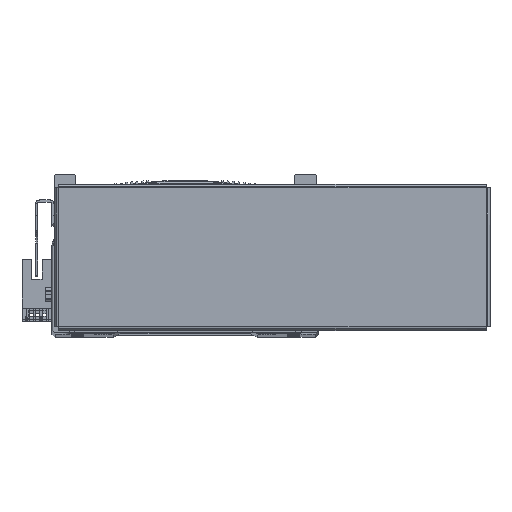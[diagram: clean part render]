
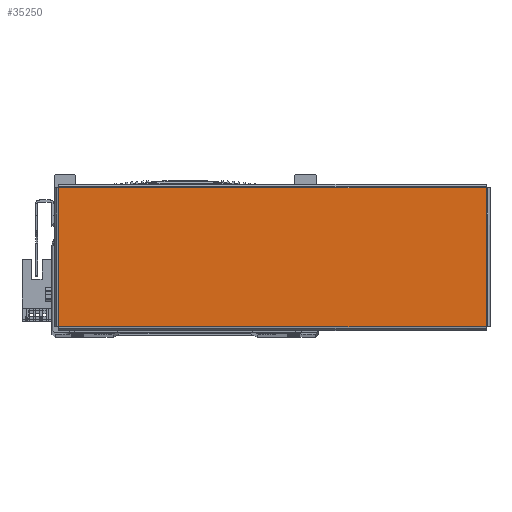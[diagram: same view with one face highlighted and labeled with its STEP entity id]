
A CAD part, top view. The second image highlights one B-rep face of the part: STEP entity #35250.
In plain terms, the highlighted planar face has unit normal (0, 0, 1) as drawn and (0, 0, -1) by its records, which use the part's own axes.
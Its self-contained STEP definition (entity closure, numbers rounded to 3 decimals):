
#5212 = VERTEX_POINT ( 'NONE', #69191 ) ;
#5233 = VERTEX_POINT ( 'NONE', #69200 ) ;
#5275 = VERTEX_POINT ( 'NONE', #69247 ) ;
#5286 = VERTEX_POINT ( 'NONE', #69251 ) ;
#35250 = ADVANCED_FACE ( 'NONE', ( #54344 ), #79522, .F. ) ;
#47933 = EDGE_LOOP ( 'NONE', ( #63510, #63354, #63363, #63422 ) ) ;
#54344 = FACE_OUTER_BOUND ( 'NONE', #47933, .T. ) ;
#63354 = ORIENTED_EDGE ( 'NONE', *, *, #72857, .T. ) ;
#63363 = ORIENTED_EDGE ( 'NONE', *, *, #72805, .T. ) ;
#63422 = ORIENTED_EDGE ( 'NONE', *, *, #72820, .T. ) ;
#63510 = ORIENTED_EDGE ( 'NONE', *, *, #72808, .T. ) ;
#66266 = AXIS2_PLACEMENT_3D ( 'NONE', #79524, #79468, #79477 ) ;
#67296 = CARTESIAN_POINT ( 'NONE',  ( -97.863, -31.793, -1. ) ) ;
#67304 = DIRECTION ( 'NONE',  ( 0., -1., 0. ) ) ;
#67308 = CARTESIAN_POINT ( 'NONE',  ( 97.863, 31.793, -1. ) ) ;
#67324 = DIRECTION ( 'NONE',  ( 0., 1., 0. ) ) ;
#67335 = DIRECTION ( 'NONE',  ( 1., 0., 0. ) ) ;
#67368 = CARTESIAN_POINT ( 'NONE',  ( -97.893, 31.763, -1. ) ) ;
#67461 = CARTESIAN_POINT ( 'NONE',  ( 97.893, -31.763, -1. ) ) ;
#67474 = DIRECTION ( 'NONE',  ( -1., 0., 0. ) ) ;
#69191 = CARTESIAN_POINT ( 'NONE',  ( 97.863, 31.763, -1. ) ) ;
#69200 = CARTESIAN_POINT ( 'NONE',  ( -97.863, 31.763, -1. ) ) ;
#69247 = CARTESIAN_POINT ( 'NONE',  ( 97.863, -31.763, -1. ) ) ;
#69251 = CARTESIAN_POINT ( 'NONE',  ( -97.863, -31.763, -1. ) ) ;
#72805 = EDGE_CURVE ( 'NONE', #5286, #5233, #77702, .T. ) ;
#72808 = EDGE_CURVE ( 'NONE', #5212, #5275, #77783, .T. ) ;
#72820 = EDGE_CURVE ( 'NONE', #5233, #5212, #77760, .T. ) ;
#72857 = EDGE_CURVE ( 'NONE', #5275, #5286, #77899, .T. ) ;
#77702 = LINE ( 'NONE', #67296, #77715 ) ;
#77704 = VECTOR ( 'NONE', #67304, 1000. ) ;
#77715 = VECTOR ( 'NONE', #67324, 1000. ) ;
#77760 = LINE ( 'NONE', #67368, #77781 ) ;
#77781 = VECTOR ( 'NONE', #67335, 1000. ) ;
#77783 = LINE ( 'NONE', #67308, #77704 ) ;
#77867 = VECTOR ( 'NONE', #67474, 1000. ) ;
#77899 = LINE ( 'NONE', #67461, #77867 ) ;
#79468 = DIRECTION ( 'NONE',  ( 0., 0., 1. ) ) ;
#79477 = DIRECTION ( 'NONE',  ( 1., 0., 0. ) ) ;
#79522 = PLANE ( 'NONE',  #66266 ) ;
#79524 = CARTESIAN_POINT ( 'NONE',  ( 0., 0., -1. ) ) ;
